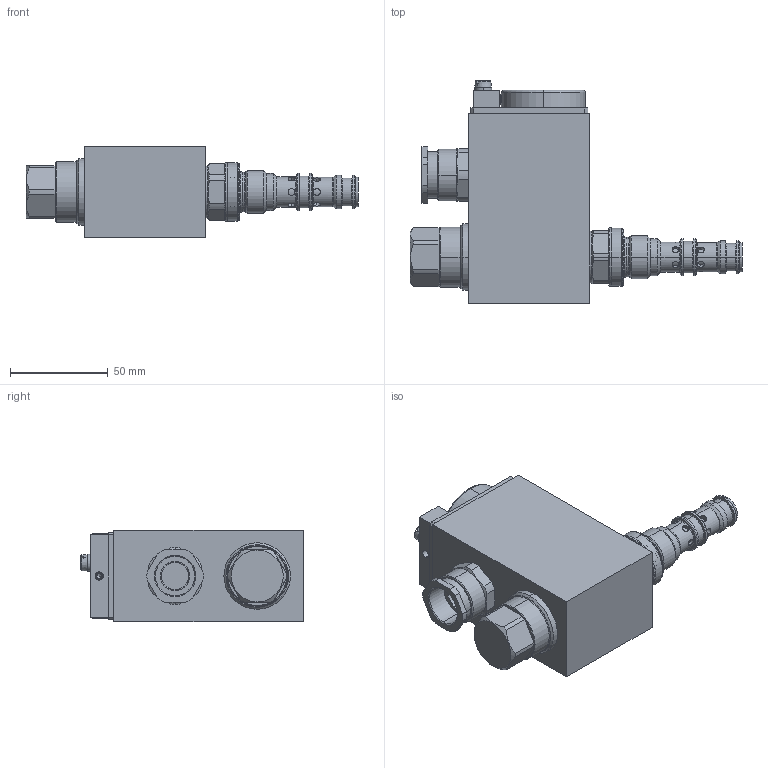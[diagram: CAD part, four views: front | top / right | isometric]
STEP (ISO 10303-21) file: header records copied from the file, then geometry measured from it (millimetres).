
FILE_DESCRIPTION (( 'STEP AP214' ), '1' );
FILE_NAME ('SDYPM22-FG-K10.STEP', '2021-02-24T11:10:53', ( '' ), ( '' ), 'SwSTEP 2.0', 'SolidWorks 2020', '' );
FILE_SCHEMA (( 'AUTOMOTIVE_DESIGN' ));
Length unit declared in the file: millimetre
Products named in the file (1): SDYPM22-FG-K10
Bounding box: 169.8 x 113.7 x 47 mm (x, y, z)
Volume: 360704.2 mm3; surface area: 44271.8 mm2
Topology: 1 solids, 3 shells, 449 faces, 1047 edges, 648 vertices
Faces by surface type: plane 178, cylinder 161, cone 60, torus 48, bspline 2
Entity records: 19384 total; most frequent: CARTESIAN_POINT 4082, DIRECTION 2246, ORIENTED_EDGE 2078, EDGE_CURVE 1039, AXIS2_PLACEMENT_3D 885, VERTEX_POINT 648, EDGE_LOOP 507, VECTOR 476
